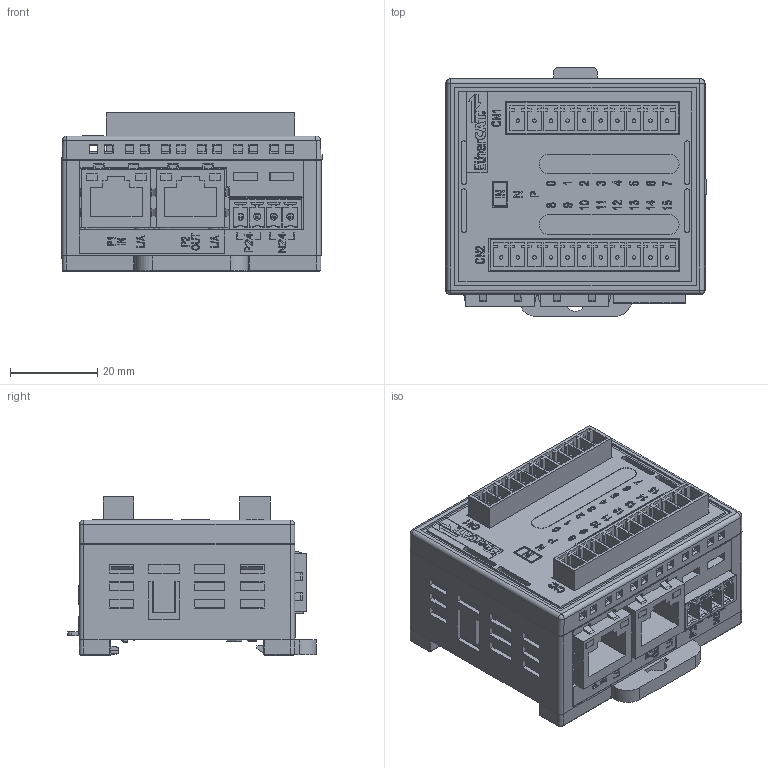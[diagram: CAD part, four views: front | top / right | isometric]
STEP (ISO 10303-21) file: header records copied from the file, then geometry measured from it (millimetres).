
FILE_DESCRIPTION((''),'2;1');
FILE_NAME('ECCBPF0','2026-05-11T14:50:43',('gijyu181'),(''),'CREO PARAMETRIC BY PTC INC, 2018050','CREO PARAMETRIC BY PTC INC, 2018050','');
FILE_SCHEMA(('CONFIG_CONTROL_DESIGN','SHAPE_APPEARANCE_LAYERS_GROUPS'));
Products named in the file (1): ECCBPF0
Bounding box: 59.75 x 57.15 x 36.3 mm (x, y, z)
Volume: 68583.2 mm3; surface area: 40791.8 mm2
Topology: 1 solids, 17 shells, 5991 faces, 16553 edges, 10929 vertices
Faces by surface type: plane 4385, extrusion 743, cylinder 727, sphere 44, cone 42, torus 26, bspline 24
Entity records: 241217 total; most frequent: CARTESIAN_POINT 42699, ORIENTED_EDGE 33070, DIRECTION 27405, EDGE_CURVE 16539, VECTOR 13991, LINE 13248, VERTEX_POINT 10929, PRESENTATION_STYLE_ASSIGNMENT 9517
